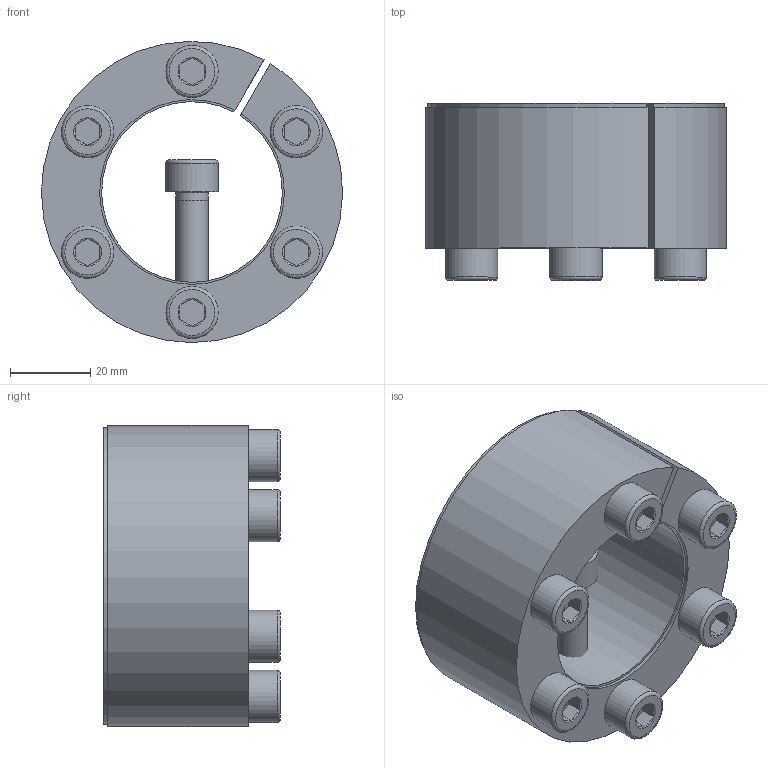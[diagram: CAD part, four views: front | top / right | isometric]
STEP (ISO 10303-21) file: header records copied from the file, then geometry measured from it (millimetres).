
FILE_DESCRIPTION( ( 'Unknown' ), '1' );
FILE_NAME( 'C:/Dokumente und Einstellungen/Sven/Desktop/homepage/cad - homepage/KBS61/KBS 61 - 45 x 75.stp', 'Unknown', ( 'Unknown' ), ( 'Unknown' ), 'XStep 1.0', 'Unknown', ' ' );
FILE_SCHEMA( ( 'automotive_design' ) );
Length unit declared in the file: millimetre
Products named in the file (3): Assem1; KBS 61 - 45 x 75; ISO 4762 M8x35
Bounding box: 74.99 x 44 x 74.99 mm (x, y, z)
Volume: 198227.8 mm3; surface area: 60837.4 mm2
Topology: 9 solids, 9 shells, 207 faces, 397 edges, 236 vertices
Faces by surface type: plane 96, cone 53, cylinder 44, torus 14
Full cylindrical faces by diameter (mm): 7 x7, 8 x26, 13 x7
Entity records: 1282 total; most frequent: CARTESIAN_POINT 229, DIRECTION 196, ORIENTED_EDGE 142, AXIS2_PLACEMENT_3D 86, EDGE_CURVE 71, EDGE_LOOP 70, FACE_OUTER_BOUND 53, VERTEX_POINT 51
